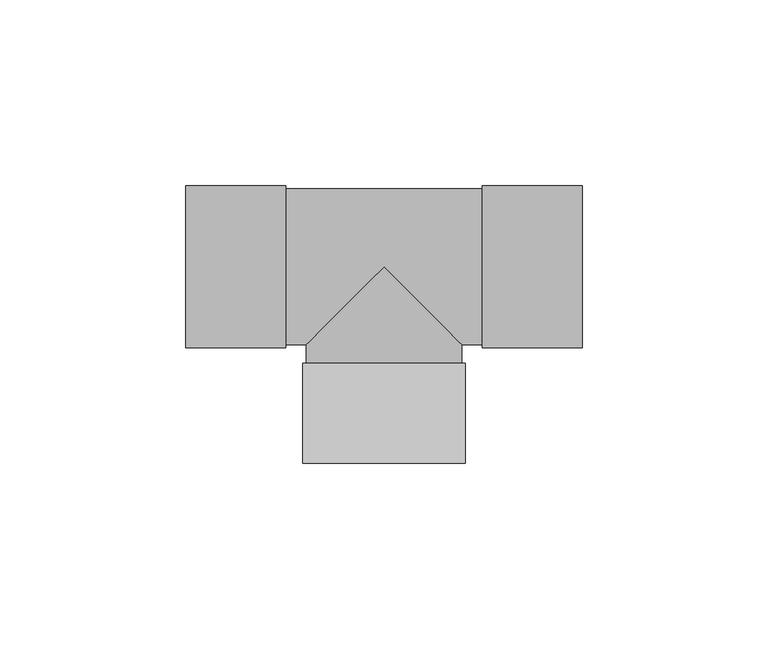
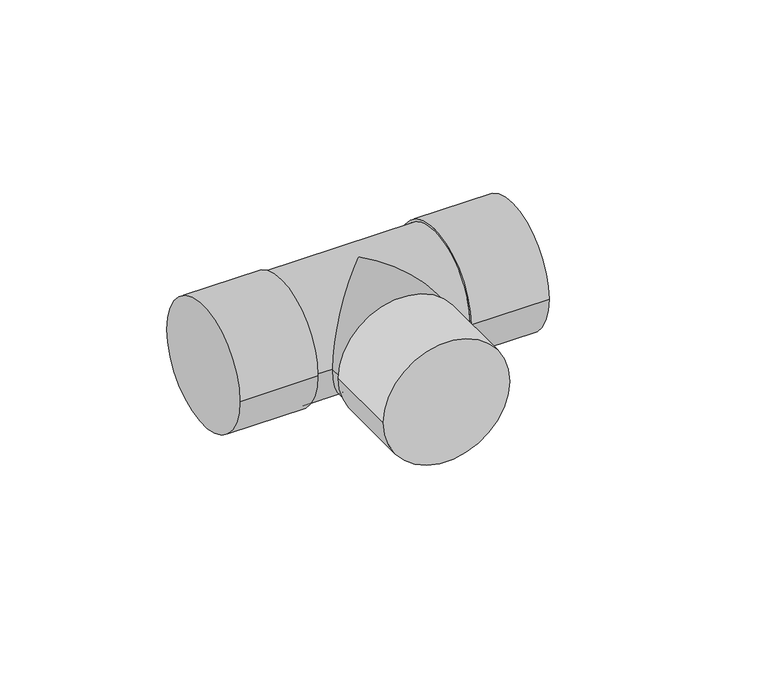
"""IFC4 building model written with IfcOpenShell, lengths in millimetres: pipe fitting geometry, Tê - Soldado - CU : Padrão."""

from ifc_helpers import new_model, si_unit, frame, origin, place, context, project, spatial, circle_curve, ellipse_curve, source, transform, mapped, element, save
from ifc_brep_helpers import plane_surface, cylinder_surface, advanced_brep


def pipe_fitting_efc12074(model_context):
    return source(origin(), model_context, "Body", "AdvancedBrep", [
        advanced_brep(
        [(21.86, -53.0, 0.0), (-21.86, -53.0, 0.0), (21.86, -26.0, 0.0), (-21.86, -26.0, 0.0), (21.0, -26.0, 0.0), (-21.0, -26.0, 0.0), (-53.5, -21.86, 0.0), (-53.5, 21.86, 0.0), (-26.5, -21.86, 0.0), (-26.5, 21.86, 0.0), (-26.5, -21.0, 0.0), (-26.5, 21.0, 0.0), (26.5, 21.0, 0.0), (-21.0, -21.0, 0.0), (0.0, 0.0, 21.0), (21.0, -21.0, 0.0), (26.5, -21.0, 0.0), (0.0, 0.0, -21.0), (26.5, -21.86, 0.0), (26.5, 21.86, 0.0), (53.5, -21.86, 0.0), (53.5, 21.86, 0.0)],
        [
            (0, 1, circle_curve(frame((0.0, -53.0, 0.0), z_axis=(0.0, -1.0, 0.0), x_axis=(-1.0, 0.0, 0.0)), 21.86)),
            (1, 0, circle_curve(frame((0.0, -53.0, 0.0), z_axis=(0.0, -1.0, 0.0), x_axis=(-1.0, 0.0, 0.0)), 21.86)),
            (2, 3, circle_curve(frame((0.0, -26.0, 0.0), z_axis=(0.0, 1.0, 0.0), x_axis=(-1.0, 0.0, 0.0)), 21.86)),
            (3, 2, circle_curve(frame((0.0, -26.0, 0.0), z_axis=(0.0, 1.0, 0.0), x_axis=(-1.0, 0.0, 0.0)), 21.86)),
            (4, 5, circle_curve(frame((0.0, -26.0, 0.0), z_axis=(0.0, -1.0, 0.0), x_axis=(1.0, 0.0, 0.0)), 21.0)),
            (5, 4, circle_curve(frame((0.0, -26.0, 0.0), z_axis=(0.0, -1.0, 0.0), x_axis=(1.0, 0.0, 0.0)), 21.0)),
            (0, 2),
            (3, 1),
            (6, 7, circle_curve(frame((-53.5, 0.0, 0.0), z_axis=(-1.0, 0.0, 0.0), x_axis=(0.0, 1.0, 0.0)), 21.86)),
            (7, 6, circle_curve(frame((-53.5, 0.0, 0.0), z_axis=(-1.0, 0.0, 0.0), x_axis=(0.0, 1.0, 0.0)), 21.86)),
            (8, 9, circle_curve(frame((-26.5, 0.0, 0.0), z_axis=(1.0, 0.0, 0.0), x_axis=(0.0, 1.0, 0.0)), 21.86)),
            (9, 8, circle_curve(frame((-26.5, 0.0, 0.0), z_axis=(1.0, 0.0, 0.0), x_axis=(0.0, 1.0, 0.0)), 21.86)),
            (10, 11, circle_curve(frame((-26.5, 0.0, 0.0), z_axis=(-1.0, 0.0, 0.0), x_axis=(0.0, 1.0, 0.0)), 21.0)),
            (11, 10, circle_curve(frame((-26.5, 0.0, 0.0), z_axis=(-1.0, 0.0, 0.0), x_axis=(0.0, 1.0, 0.0)), 21.0)),
            (6, 8),
            (9, 7),
            (12, 11),
            (10, 13),
            (13, 14, ellipse_curve(frame((0.0, 0.0, 0.0), z_axis=(-0.7071067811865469, 0.7071067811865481, 0.0), x_axis=(-0.707106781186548, -0.7071067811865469, 0.0)), 29.6984848, 21.0)),
            (14, 15, ellipse_curve(frame((0.0, 0.0, 0.0), z_axis=(0.7071067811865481, 0.7071067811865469, 0.0), x_axis=(-0.707106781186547, 0.7071067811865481, 0.0)), 29.6984848, 21.0)),
            (15, 16),
            (16, 12, circle_curve(frame((26.5, 0.0, 0.0), z_axis=(-1.0, 0.0, 0.0), x_axis=(0.0, 1.0, 0.0)), 21.0)),
            (12, 16, circle_curve(frame((26.5, 0.0, 0.0), z_axis=(-1.0, 0.0, 0.0), x_axis=(0.0, 1.0, 0.0)), 21.0)),
            (15, 17, ellipse_curve(frame((0.0, 0.0, 0.0), z_axis=(0.7071067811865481, 0.7071067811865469, 0.0), x_axis=(-0.707106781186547, 0.7071067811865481, 0.0)), 29.6984848, 21.0)),
            (17, 13, ellipse_curve(frame((0.0, 0.0, 0.0), z_axis=(-0.7071067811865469, 0.7071067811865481, 0.0), x_axis=(-0.707106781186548, -0.7071067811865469, 0.0)), 29.6984848, 21.0)),
            (18, 19, circle_curve(frame((26.5, 0.0, 0.0), z_axis=(-1.0, 0.0, 0.0), x_axis=(0.0, 1.0, 0.0)), 21.86)),
            (19, 18, circle_curve(frame((26.5, 0.0, 0.0), z_axis=(-1.0, 0.0, 0.0), x_axis=(0.0, 1.0, 0.0)), 21.86)),
            (20, 21, circle_curve(frame((53.5, 0.0, 0.0), z_axis=(1.0, 0.0, 0.0), x_axis=(0.0, 1.0, 0.0)), 21.86)),
            (21, 20, circle_curve(frame((53.5, 0.0, 0.0), z_axis=(1.0, 0.0, 0.0), x_axis=(0.0, 1.0, 0.0)), 21.86)),
            (18, 20),
            (21, 19),
            (4, 15),
            (13, 5),
        ],
        [
            plane_surface(frame((0.0, -53.0, 0.0), z_axis=(0.0, -1.0, 0.0), x_axis=(0.0, 0.0, 1.0))),
            plane_surface(frame((0.0, -26.0, 0.0), z_axis=(0.0, 1.0, 0.0), x_axis=(0.0, 0.0, 1.0))),
            cylinder_surface(frame((0.0, -53.0, 0.0), z_axis=(0.0, -1.0, 0.0), x_axis=(-1.0, 0.0, 0.0)), 21.86),
            plane_surface(frame((-53.5, 0.0, 0.0), z_axis=(-1.0, 0.0, 0.0), x_axis=(0.0, 0.0, 1.0))),
            plane_surface(frame((-26.5, 0.0, 0.0), z_axis=(1.0, 0.0, 0.0), x_axis=(0.0, 0.0, 1.0))),
            cylinder_surface(frame((-53.5, 0.0, 0.0), z_axis=(-1.0, 0.0, 0.0), x_axis=(0.0, 1.0, 0.0)), 21.86),
            cylinder_surface(frame((-26.5, 0.0, 0.0), z_axis=(-1.0, 0.0, 0.0), x_axis=(0.0, 1.0, 0.0)), 21.0),
            plane_surface(frame((26.5, 0.0, 0.0), z_axis=(-1.0, 0.0, 0.0), x_axis=(0.0, 0.0, 1.0))),
            plane_surface(frame((53.5, 0.0, 0.0), z_axis=(1.0, 0.0, 0.0), x_axis=(0.0, 0.0, 1.0))),
            cylinder_surface(frame((26.5, 0.0, 0.0), z_axis=(-1.0, 0.0, 0.0), x_axis=(0.0, 1.0, 0.0)), 21.86),
            cylinder_surface(frame((0.0, 0.0, 0.0), z_axis=(0.0, 1.0, 0.0), x_axis=(1.0, 0.0, 0.0)), 21.0),
        ],
        [
            (0, [[1, 2]]),
            (1, [[3, 4], [5, 6]]),
            (2, [[-1, 7, -4, 8]]),
            (2, [[-2, -8, -3, -7]]),
            (3, [[9, 10]]),
            (4, [[11, 12], [13, 14]]),
            (5, [[-9, 15, -12, 16]]),
            (5, [[-10, -16, -11, -15]]),
            (6, [[17, -13, 18, 19, 20, 21, 22]]),
            (6, [[-17, 23, -21, 24, 25, -18, -14]]),
            (7, [[26, 27], [-22, -23]]),
            (8, [[28, 29]]),
            (9, [[-26, 30, -29, 31]]),
            (9, [[-27, -31, -28, -30]]),
            (10, [[32, -20, -19, 33, -5]]),
            (10, [[-32, -6, -33, -25, -24]]),
        ],
    ),
    ])


if __name__ == "__main__":
    model = new_model("IFC4")
    model_context = context("Model", 3, world=origin())
    ifc_project = project(units=[si_unit("LENGTHUNIT", "METRE", prefix="MILLI")], contexts=[model_context])
    site = spatial("IfcSite", under=ifc_project)
    building = spatial("IfcBuilding", under=site)
    placement = place(None, origin())
    pipe_fitting_shape = pipe_fitting_efc12074(model_context)
    element("IfcPipeFitting", 1, ObjectType="Tê - Soldado - CU : Padrão", at=placement, inside=building, context=model_context, shape_type="MappedRepresentation", body=[
        mapped(pipe_fitting_shape, transform((0.0, 0.0, 0.0), x_axis=(1.0, 0.0, 0.0), y_axis=(0.0, 1.0, 0.0), z_axis=(0.0, 0.0, 1.0))),
    ])
    save(model, "model.ifc")
